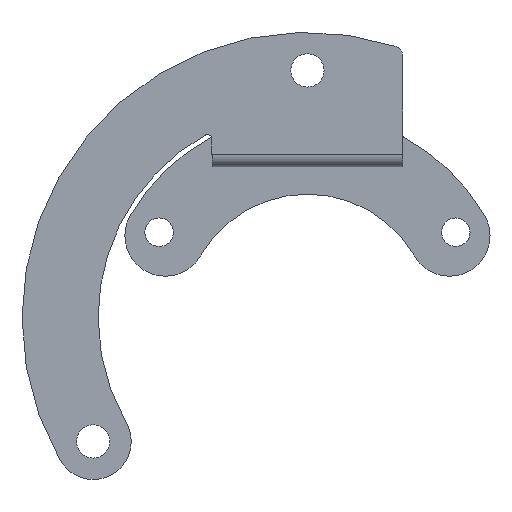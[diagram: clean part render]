
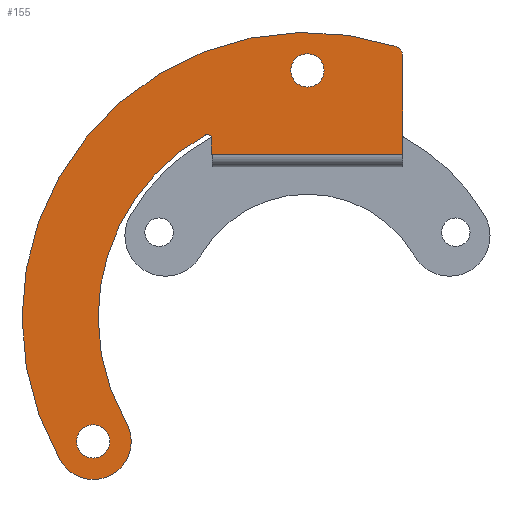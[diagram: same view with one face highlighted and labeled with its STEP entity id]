
A CAD part, top view. The second image highlights one B-rep face of the part: STEP entity #155.
In plain terms, the highlighted planar face has unit normal (0, 0, 1).
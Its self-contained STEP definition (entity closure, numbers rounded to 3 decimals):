
#18 = VERTEX_POINT ( 'NONE', #1061 ) ;
#27 = EDGE_CURVE ( 'NONE', #618, #1135, #969, .T. ) ;
#37 = ORIENTED_EDGE ( 'NONE', *, *, #170, .T. ) ;
#54 = AXIS2_PLACEMENT_3D ( 'NONE', #588, #773, #270 ) ;
#61 = DIRECTION ( 'NONE',  ( 0., 0., -1. ) ) ;
#66 = DIRECTION ( 'NONE',  ( 1., 0., 0. ) ) ;
#77 = AXIS2_PLACEMENT_3D ( 'NONE', #769, #1287, #584 ) ;
#87 = EDGE_CURVE ( 'NONE', #98, #1218, #903, .T. ) ;
#98 = VERTEX_POINT ( 'NONE', #1003 ) ;
#145 = CIRCLE ( 'NONE', #988, 1.75 ) ;
#155 = ADVANCED_FACE ( 'NONE', ( #266, #1320, #895 ), #1199, .T. ) ;
#170 = EDGE_CURVE ( 'NONE', #375, #910, #1155, .T. ) ;
#179 = DIRECTION ( 'NONE',  ( 0., 0., 1. ) ) ;
#180 = ORIENTED_EDGE ( 'NONE', *, *, #87, .F. ) ;
#183 = CARTESIAN_POINT ( 'NONE',  ( 9.31, 28.519, 5.05 ) ) ;
#187 = DIRECTION ( 'NONE',  ( 0., 0., 1. ) ) ;
#205 = CARTESIAN_POINT ( 'NONE',  ( 10., 27.568, 5.05 ) ) ;
#207 = DIRECTION ( 'NONE',  ( 0., 0., 1. ) ) ;
#212 = EDGE_CURVE ( 'NONE', #1321, #18, #145, .T. ) ;
#216 = CIRCLE ( 'NONE', #77, 22. ) ;
#241 = CIRCLE ( 'NONE', #925, 30. ) ;
#254 = EDGE_CURVE ( 'NONE', #441, #381, #298, .T. ) ;
#260 = ORIENTED_EDGE ( 'NONE', *, *, #1268, .T. ) ;
#266 = FACE_BOUND ( 'NONE', #1009, .T. ) ;
#270 = DIRECTION ( 'NONE',  ( 1., 0., 0. ) ) ;
#271 = EDGE_CURVE ( 'NONE', #683, #1050, #1008, .T. ) ;
#274 = DIRECTION ( 'NONE',  ( 0., 0., 1. ) ) ;
#280 = VECTOR ( 'NONE', #965, 1000. ) ;
#293 = EDGE_CURVE ( 'NONE', #1179, #375, #500, .T. ) ;
#297 = DIRECTION ( 'NONE',  ( 1., 0., 0. ) ) ;
#298 = LINE ( 'NONE', #205, #299 ) ;
#299 = VECTOR ( 'NONE', #1142, 1000. ) ;
#301 = CIRCLE ( 'NONE', #655, 1. ) ;
#303 = DIRECTION ( 'NONE',  ( 1., 0., 0. ) ) ;
#340 = LINE ( 'NONE', #840, #280 ) ;
#369 = AXIS2_PLACEMENT_3D ( 'NONE', #704, #1343, #625 ) ;
#370 = CARTESIAN_POINT ( 'NONE',  ( -10.746, 19.197, 5.05 ) ) ;
#371 = CIRCLE ( 'NONE', #1314, 0.5 ) ;
#375 = VERTEX_POINT ( 'NONE', #631 ) ;
#381 = VERTEX_POINT ( 'NONE', #544 ) ;
#388 = DIRECTION ( 'NONE',  ( 1., 0., 0. ) ) ;
#389 = AXIS2_PLACEMENT_3D ( 'NONE', #641, #1067, #758 ) ;
#413 = ORIENTED_EDGE ( 'NONE', *, *, #293, .T. ) ;
#421 = ORIENTED_EDGE ( 'NONE', *, *, #732, .T. ) ;
#441 = VERTEX_POINT ( 'NONE', #558 ) ;
#456 = AXIS2_PLACEMENT_3D ( 'NONE', #684, #1206, #691 ) ;
#486 = ORIENTED_EDGE ( 'NONE', *, *, #688, .T. ) ;
#493 = CARTESIAN_POINT ( 'NONE',  ( -10.502, 18.761, 5.05 ) ) ;
#497 = CARTESIAN_POINT ( 'NONE',  ( -10.091, 17.174, 5.05 ) ) ;
#500 = CIRCLE ( 'NONE', #1176, 4. ) ;
#501 = CARTESIAN_POINT ( 'NONE',  ( -22.517, -13., 5.05 ) ) ;
#513 = CARTESIAN_POINT ( 'NONE',  ( -22.517, -13., 5.05 ) ) ;
#524 = AXIS2_PLACEMENT_3D ( 'NONE', #1040, #207, #941 ) ;
#541 = VERTEX_POINT ( 'NONE', #1309 ) ;
#544 = CARTESIAN_POINT ( 'NONE',  ( 10., 27.568, 5.05 ) ) ;
#545 = VERTEX_POINT ( 'NONE', #370 ) ;
#558 = CARTESIAN_POINT ( 'NONE',  ( 10., 17.174, 5.05 ) ) ;
#572 = CIRCLE ( 'NONE', #1334, 1.75 ) ;
#575 = ORIENTED_EDGE ( 'NONE', *, *, #1069, .F. ) ;
#584 = DIRECTION ( 'NONE',  ( 1., 0., 0. ) ) ;
#588 = CARTESIAN_POINT ( 'NONE',  ( 0., 0., 5.05 ) ) ;
#599 = CARTESIAN_POINT ( 'NONE',  ( -10., 17.174, 5.05 ) ) ;
#614 = ORIENTED_EDGE ( 'NONE', *, *, #212, .F. ) ;
#618 = VERTEX_POINT ( 'NONE', #811 ) ;
#625 = DIRECTION ( 'NONE',  ( 1., 0., 0. ) ) ;
#631 = CARTESIAN_POINT ( 'NONE',  ( -19.053, -11., 5.05 ) ) ;
#637 = EDGE_CURVE ( 'NONE', #545, #618, #371, .T. ) ;
#641 = CARTESIAN_POINT ( 'NONE',  ( 0., 26., 5.05 ) ) ;
#655 = AXIS2_PLACEMENT_3D ( 'NONE', #724, #187, #912 ) ;
#683 = VERTEX_POINT ( 'NONE', #183 ) ;
#684 = CARTESIAN_POINT ( 'NONE',  ( 9., 27.568, 5.05 ) ) ;
#688 = EDGE_CURVE ( 'NONE', #381, #683, #301, .T. ) ;
#691 = DIRECTION ( 'NONE',  ( 1., 0., 0. ) ) ;
#699 = LINE ( 'NONE', #599, #1353 ) ;
#704 = CARTESIAN_POINT ( 'NONE',  ( 0., 0., 5.05 ) ) ;
#706 = CARTESIAN_POINT ( 'NONE',  ( -30., 0., 5.05 ) ) ;
#708 = DIRECTION ( 'NONE',  ( 0., 0., 1. ) ) ;
#724 = CARTESIAN_POINT ( 'NONE',  ( 9., 27.568, 5.05 ) ) ;
#732 = EDGE_CURVE ( 'NONE', #541, #441, #699, .T. ) ;
#758 = DIRECTION ( 'NONE',  ( 1., 0., 0. ) ) ;
#769 = CARTESIAN_POINT ( 'NONE',  ( 0., 0., 5.05 ) ) ;
#773 = DIRECTION ( 'NONE',  ( 0., 0., -1. ) ) ;
#776 = EDGE_CURVE ( 'NONE', #1135, #541, #340, .T. ) ;
#811 = CARTESIAN_POINT ( 'NONE',  ( -10.091, 19.045, 5.05 ) ) ;
#836 = CIRCLE ( 'NONE', #524, 1.75 ) ;
#840 = CARTESIAN_POINT ( 'NONE',  ( -10.091, 17.174, 5.05 ) ) ;
#845 = CARTESIAN_POINT ( 'NONE',  ( 0., 0., 5.05 ) ) ;
#895 = FACE_OUTER_BOUND ( 'NONE', #1115, .T. ) ;
#903 = CIRCLE ( 'NONE', #389, 1.75 ) ;
#910 = VERTEX_POINT ( 'NONE', #996 ) ;
#912 = DIRECTION ( 'NONE',  ( 1., 0., 0. ) ) ;
#919 = ORIENTED_EDGE ( 'NONE', *, *, #933, .T. ) ;
#925 = AXIS2_PLACEMENT_3D ( 'NONE', #845, #1246, #303 ) ;
#933 = EDGE_CURVE ( 'NONE', #910, #545, #216, .T. ) ;
#934 = DIRECTION ( 'NONE',  ( 1., 0., 0. ) ) ;
#941 = DIRECTION ( 'NONE',  ( 1., 0., 0. ) ) ;
#951 = CARTESIAN_POINT ( 'NONE',  ( 1.75, 26., 5.05 ) ) ;
#965 = DIRECTION ( 'NONE',  ( 1., 0., 0. ) ) ;
#968 = ORIENTED_EDGE ( 'NONE', *, *, #1245, .F. ) ;
#969 = LINE ( 'NONE', #976, #1261 ) ;
#976 = CARTESIAN_POINT ( 'NONE',  ( -10.091, 19.045, 5.05 ) ) ;
#988 = AXIS2_PLACEMENT_3D ( 'NONE', #501, #179, #934 ) ;
#990 = ORIENTED_EDGE ( 'NONE', *, *, #27, .T. ) ;
#996 = CARTESIAN_POINT ( 'NONE',  ( -22., 0., 5.05 ) ) ;
#1003 = CARTESIAN_POINT ( 'NONE',  ( -1.75, 26., 5.05 ) ) ;
#1008 = CIRCLE ( 'NONE', #369, 30. ) ;
#1009 = EDGE_LOOP ( 'NONE', ( #575, #180 ) ) ;
#1021 = DIRECTION ( 'NONE',  ( 1., 0., 0. ) ) ;
#1040 = CARTESIAN_POINT ( 'NONE',  ( -22.517, -13., 5.05 ) ) ;
#1050 = VERTEX_POINT ( 'NONE', #706 ) ;
#1061 = CARTESIAN_POINT ( 'NONE',  ( -24.267, -13., 5.05 ) ) ;
#1067 = DIRECTION ( 'NONE',  ( 0., 0., 1. ) ) ;
#1069 = EDGE_CURVE ( 'NONE', #1218, #98, #572, .T. ) ;
#1085 = CARTESIAN_POINT ( 'NONE',  ( -20.767, -13., 5.05 ) ) ;
#1115 = EDGE_LOOP ( 'NONE', ( #1258, #421, #1322, #486, #1254, #260, #413, #37, #919, #1269, #990 ) ) ;
#1135 = VERTEX_POINT ( 'NONE', #497 ) ;
#1142 = DIRECTION ( 'NONE',  ( 0., 1., 0. ) ) ;
#1155 = CIRCLE ( 'NONE', #54, 22. ) ;
#1173 = DIRECTION ( 'NONE',  ( 0., -1., 0. ) ) ;
#1176 = AXIS2_PLACEMENT_3D ( 'NONE', #513, #708, #1021 ) ;
#1179 = VERTEX_POINT ( 'NONE', #1235 ) ;
#1199 = PLANE ( 'NONE',  #456 ) ;
#1206 = DIRECTION ( 'NONE',  ( 0., 0., 1. ) ) ;
#1218 = VERTEX_POINT ( 'NONE', #951 ) ;
#1235 = CARTESIAN_POINT ( 'NONE',  ( -25.981, -15., 5.05 ) ) ;
#1245 = EDGE_CURVE ( 'NONE', #18, #1321, #836, .T. ) ;
#1246 = DIRECTION ( 'NONE',  ( 0., 0., 1. ) ) ;
#1254 = ORIENTED_EDGE ( 'NONE', *, *, #271, .T. ) ;
#1258 = ORIENTED_EDGE ( 'NONE', *, *, #776, .T. ) ;
#1261 = VECTOR ( 'NONE', #1173, 1000. ) ;
#1268 = EDGE_CURVE ( 'NONE', #1050, #1179, #241, .T. ) ;
#1269 = ORIENTED_EDGE ( 'NONE', *, *, #637, .T. ) ;
#1287 = DIRECTION ( 'NONE',  ( 0., 0., -1. ) ) ;
#1298 = EDGE_LOOP ( 'NONE', ( #614, #968 ) ) ;
#1309 = CARTESIAN_POINT ( 'NONE',  ( -10., 17.174, 5.05 ) ) ;
#1314 = AXIS2_PLACEMENT_3D ( 'NONE', #493, #61, #388 ) ;
#1320 = FACE_BOUND ( 'NONE', #1298, .T. ) ;
#1321 = VERTEX_POINT ( 'NONE', #1085 ) ;
#1322 = ORIENTED_EDGE ( 'NONE', *, *, #254, .T. ) ;
#1327 = CARTESIAN_POINT ( 'NONE',  ( 0., 26., 5.05 ) ) ;
#1334 = AXIS2_PLACEMENT_3D ( 'NONE', #1327, #274, #66 ) ;
#1343 = DIRECTION ( 'NONE',  ( 0., 0., 1. ) ) ;
#1353 = VECTOR ( 'NONE', #297, 1000. ) ;
